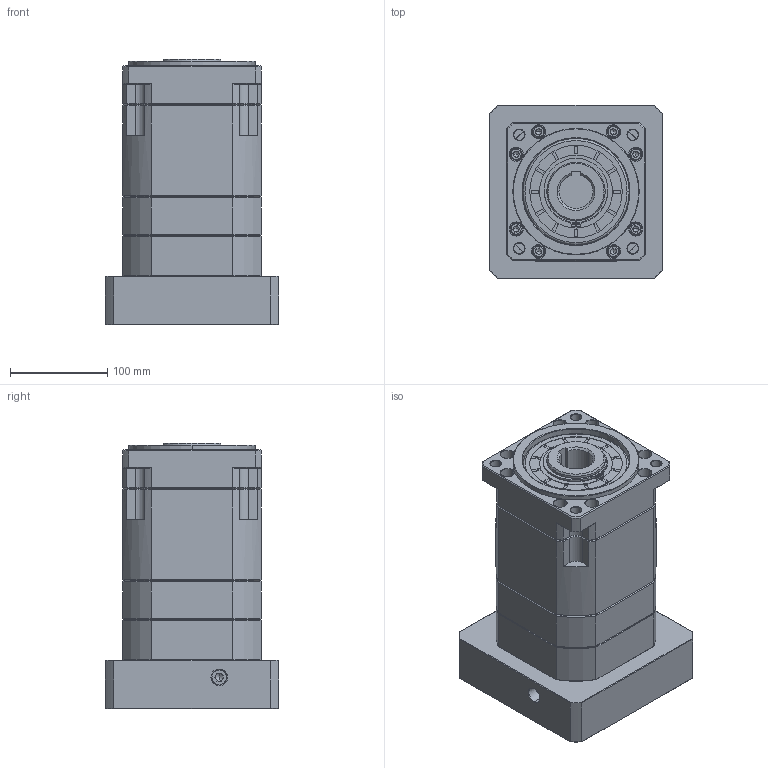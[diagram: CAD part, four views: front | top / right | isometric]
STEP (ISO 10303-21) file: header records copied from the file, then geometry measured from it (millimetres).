
FILE_DESCRIPTION (( 'STEP AP214' ), '1' );
FILE_NAME ('ZB142A-K35-L3-35-150-200-M12.step', '2023-03-17T10:50:48', ( '' ), ( '' ), 'SwSTEP 2.0', 'SolidWorks 2016', '' );
FILE_SCHEMA (( 'AUTOMOTIVE_DESIGN' ));
Length unit declared in the file: millimetre
Products named in the file (1): ZB142A-K35-L3-35-150-200-M12
Bounding box: 178 x 178 x 273.2 mm (x, y, z)
Volume: 5108145.8 mm3; surface area: 352965 mm2
Topology: 6 solids, 6 shells, 1989 faces, 5247 edges, 3356 vertices
Faces by surface type: plane 928, cylinder 381, cone 354, bspline 306, torus 20
Entity records: 107949 total; most frequent: CARTESIAN_POINT 39174, ORIENTED_EDGE 10438, DIRECTION 8668, EDGE_CURVE 5219, VERTEX_POINT 3356, LINE 3226, VECTOR 3226, AXIS2_PLACEMENT_3D 2721
